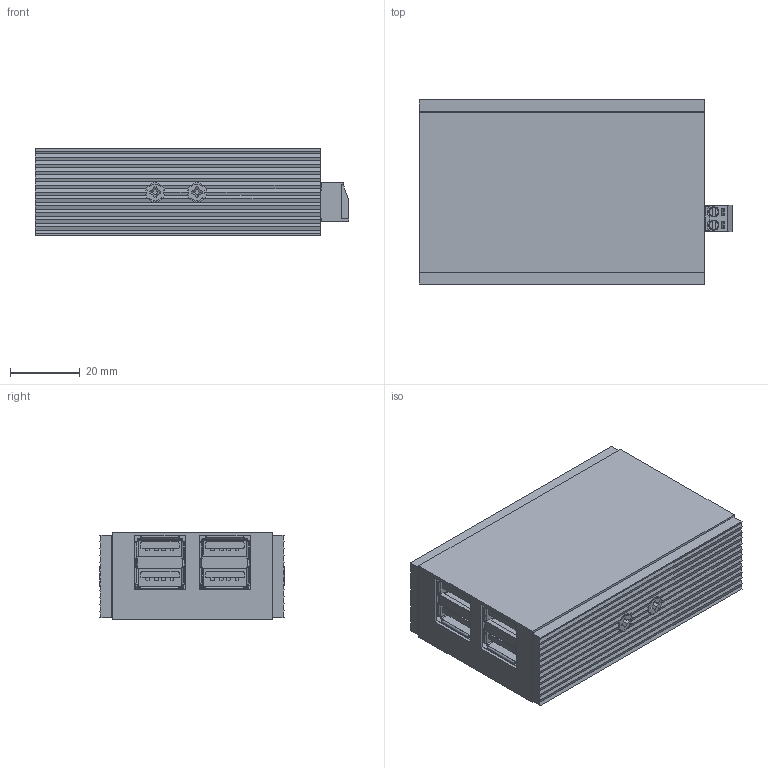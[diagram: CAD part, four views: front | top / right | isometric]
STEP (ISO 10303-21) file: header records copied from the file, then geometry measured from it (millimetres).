
FILE_DESCRIPTION(('FreeCAD Model'),'2;1');
FILE_NAME('Open CASCADE Shape Model','2024-02-26T16:04:05',(''),(''), 'Open CASCADE STEP processor 7.6','FreeCAD','Unknown');
FILE_SCHEMA(('AUTOMOTIVE_DESIGN { 1 0 10303 214 1 1 1 1 }'));
Length unit declared in the file: millimetre
Products named in the file (33): Unnamed3; Case_down_1181HMS-WT (Solid); Case_up_1181HMS-WT (Solid); Cooler_left (Solid); Cooler_right (Solid); Assem002; 691361300002; 691361300002_CAPOT; 6913613000xx_VIS; 6913613000xx_VIS001; 6913613000xx_CAGE; 6913613000xx_CAGE001; 6913613000xx_PIN; 6913613000xx_PIN001; Assem1; 691305340002; 6913053400xx_PIN; 6913053400xx_PIN001; EX-1181HMS-WT_pcb (Solid); CircuitWorks-LED DIP 3MM001; usb3_a-usb3_b; usb_3_a-usb3_a-2p#001; usb_3_a-usb3_a-2p#002; schraube_iso_7045-m3x5-4_8-h#001; schraube_iso_7045-m3x5-4_8-h#002; dineniso7046-2m3x48_8h1#001; dineniso7046-2m3x48_8h1#002; dineniso7046-2m3x48_8h1#003; dineniso7046-2m3x48_8h1#004; dineniso7046-2m3x48_8h1#005; dineniso7046-2m3x48_8h1#006; dineniso7046-2m3x48_8h1#007; dineniso7046-2m3x48_8h1#008
Assembly tree (32 placements, depth 3):
  Unnamed3
    Case_down_1181HMS-WT (Solid)
    Case_up_1181HMS-WT (Solid)
    Cooler_left (Solid)
    Cooler_right (Solid)
    Assem002
      691361300002
      691361300002_CAPOT
      6913613000xx_VIS
      6913613000xx_VIS001
      6913613000xx_CAGE
      6913613000xx_CAGE001
      6913613000xx_PIN
      6913613000xx_PIN001
    Assem1
      691305340002
      6913053400xx_PIN
      6913053400xx_PIN001
    EX-1181HMS-WT_pcb (Solid)
    CircuitWorks-LED DIP 3MM001
    usb3_a-usb3_b
    usb_3_a-usb3_a-2p#001
    usb_3_a-usb3_a-2p#002
    schraube_iso_7045-m3x5-4_8-h#001
    schraube_iso_7045-m3x5-4_8-h#002
    dineniso7046-2m3x48_8h1#001
    dineniso7046-2m3x48_8h1#002
    dineniso7046-2m3x48_8h1#003
    dineniso7046-2m3x48_8h1#004
    dineniso7046-2m3x48_8h1#005
    dineniso7046-2m3x48_8h1#006
    dineniso7046-2m3x48_8h1#007
    dineniso7046-2m3x48_8h1#008
Bounding box: 90 x 52.9 x 25 mm (x, y, z)
Volume: 40537 mm3; surface area: 58362.7 mm2
Topology: 30 solids, 30 shells, 2480 faces, 6846 edges, 4493 vertices
Faces by surface type: plane 1807, cylinder 525, cone 94, torus 48, sphere 6
Full cylindrical faces by diameter (mm): 1.35 x2, 1.598 x2, 1.8 x2, 1.9 x4, 2 x2, 2.4 x2, 2.6 x18, 2.7 x2, 2.9 x2, 3.65 x4, 4 x1, 5.1 x2
Entity records: 91955 total; most frequent: CARTESIAN_POINT 16567, ORIENTED_EDGE 13680, DIRECTION 13014, EDGE_CURVE 6840, LINE 5144, VECTOR 5144, VERTEX_POINT 4493, AXIS2_PLACEMENT_3D 3935
